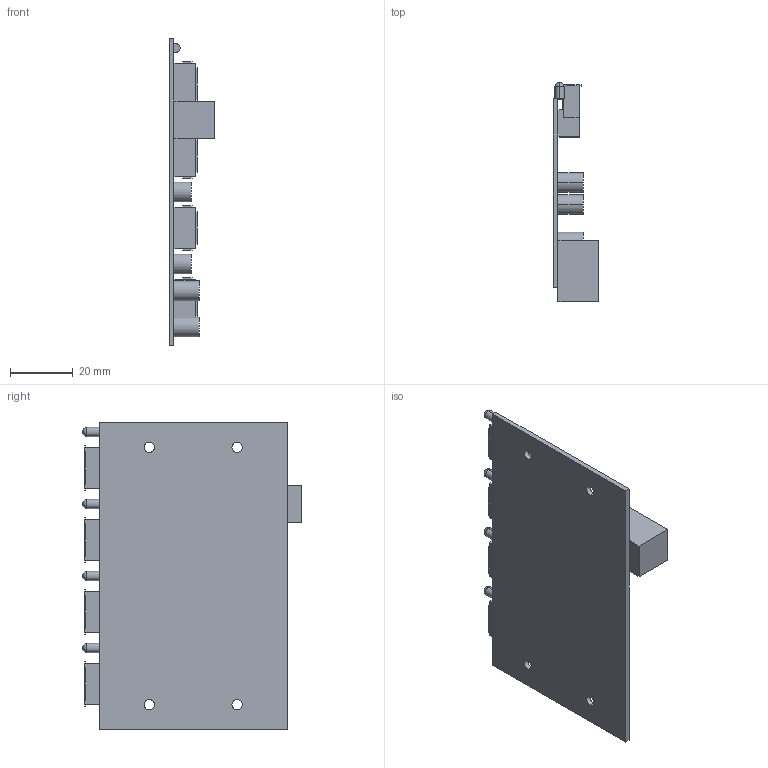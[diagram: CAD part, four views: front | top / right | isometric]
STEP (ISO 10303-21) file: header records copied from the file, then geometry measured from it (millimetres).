
FILE_DESCRIPTION (( 'STEP AP214' ), '1' );
FILE_NAME ('USB_PCB.STEP', '2015-02-27T04:09:53', ( '' ), ( '' ), '', '', '' );
FILE_SCHEMA (( '' ));
Length unit declared in the file: millimetre
Products named in the file (1): USB_PCB
Bounding box: 14.5 x 69.75 x 98 mm (x, y, z)
Volume: 16956.5 mm3; surface area: 19240.1 mm2
Topology: 1 solids, 1 shells, 194 faces, 504 edges, 330 vertices
Faces by surface type: plane 158, cylinder 28, torus 8
Entity records: 6541 total; most frequent: CARTESIAN_POINT 1029, ORIENTED_EDGE 1008, DIRECTION 974, EDGE_CURVE 504, LINE 424, VECTOR 424, VERTEX_POINT 330, AXIS2_PLACEMENT_3D 275
